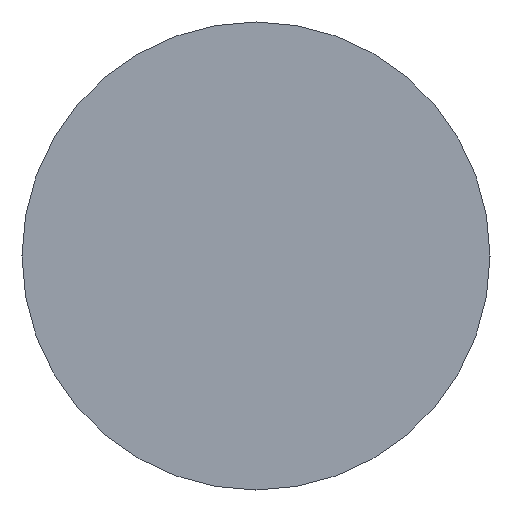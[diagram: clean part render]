
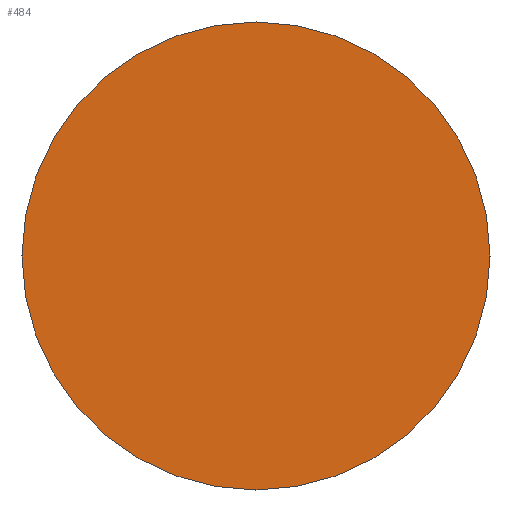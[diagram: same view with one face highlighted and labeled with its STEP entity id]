
A CAD part, left-side view. The second image highlights one B-rep face of the part: STEP entity #484.
In plain terms, the highlighted planar face has unit normal (-1, 0, 0).
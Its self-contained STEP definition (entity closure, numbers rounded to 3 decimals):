
#5 = VERTEX_POINT ( 'NONE', #24 ) ;
#13 = FACE_OUTER_BOUND ( 'NONE', #453, .T. ) ;
#14 = PLANE ( 'NONE',  #15 ) ;
#15 = AXIS2_PLACEMENT_3D ( 'NONE', #16, #17, #18 ) ;
#16 = CARTESIAN_POINT ( 'NONE',  ( 0., 30., 0. ) ) ;
#17 = DIRECTION ( 'NONE',  ( 1., 0., 0. ) ) ;
#18 = DIRECTION ( 'NONE',  ( 0., 0., -1. ) ) ;
#24 = CARTESIAN_POINT ( 'NONE',  ( 0., 0., 30. ) ) ;
#70 = CARTESIAN_POINT ( 'NONE',  ( 0., 0., -30. ) ) ;
#250 = CIRCLE ( 'NONE', #251, 30. ) ;
#251 = AXIS2_PLACEMENT_3D ( 'NONE', #252, #253, #257 ) ;
#252 = CARTESIAN_POINT ( 'NONE',  ( 0., 0., 0. ) ) ;
#253 = DIRECTION ( 'NONE',  ( -1., 0., 0. ) ) ;
#257 = DIRECTION ( 'NONE',  ( 0., 0., 1. ) ) ;
#267 = CIRCLE ( 'NONE', #268, 30. ) ;
#268 = AXIS2_PLACEMENT_3D ( 'NONE', #269, #270, #271 ) ;
#269 = CARTESIAN_POINT ( 'NONE',  ( 0., 0., 0. ) ) ;
#270 = DIRECTION ( 'NONE',  ( -1., 0., 0. ) ) ;
#271 = DIRECTION ( 'NONE',  ( 0., 0., 1. ) ) ;
#335 = EDGE_CURVE ( 'NONE', #535, #5, #250, .T. ) ;
#336 = ORIENTED_EDGE ( 'NONE', *, *, #469, .T. ) ;
#437 = ORIENTED_EDGE ( 'NONE', *, *, #335, .T. ) ;
#453 = EDGE_LOOP ( 'NONE', ( #336, #437 ) ) ;
#469 = EDGE_CURVE ( 'NONE', #5, #535, #267, .T. ) ;
#484 = ADVANCED_FACE ( 'NONE', ( #13 ), #14, .F. ) ;
#535 = VERTEX_POINT ( 'NONE', #70 ) ;
